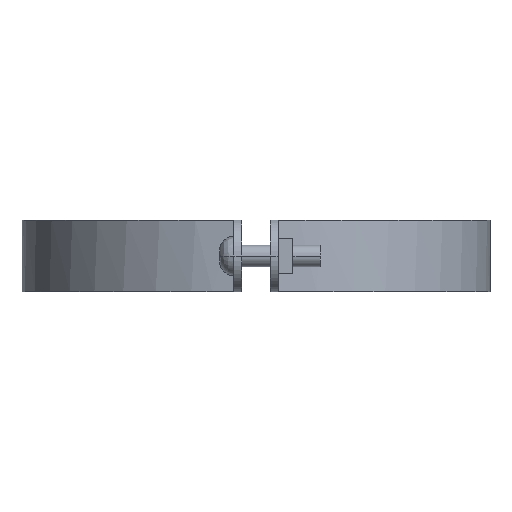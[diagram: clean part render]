
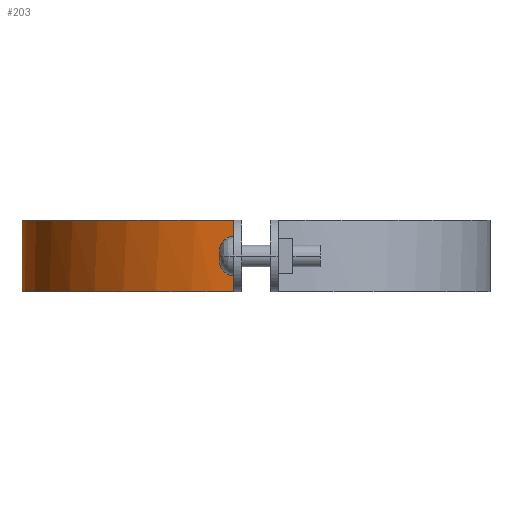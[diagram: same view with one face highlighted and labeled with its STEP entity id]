
A CAD part, left-side view. The second image highlights one B-rep face of the part: STEP entity #203.
In plain terms, the highlighted free-form (B-spline) face has degree [3, 1] with [4, 2] control points.
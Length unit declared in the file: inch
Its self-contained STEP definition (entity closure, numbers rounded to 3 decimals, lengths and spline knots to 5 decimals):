
#203=ADVANCED_FACE('',(#436),#437,.T.);
#436=FACE_OUTER_BOUND('',#786,.T.);
#437=B_SPLINE_SURFACE_WITH_KNOTS('',3,1,((#787,#788),(#789,#790),(#791,#792),(#793,#794)),.UNSPECIFIED.,.F.,.F.,.F.,(4,4),(2,2),(0.0,1.0),(0.0,1.25),.UNSPECIFIED.);
#786=EDGE_LOOP('',(#1554,#1555,#1556,#1557));
#787=CARTESIAN_POINT('',(4.7506,7.96508,0.0));
#788=CARTESIAN_POINT('',(4.7506,7.96508,1.25));
#789=CARTESIAN_POINT('',(2.65011,7.96508,0.0));
#790=CARTESIAN_POINT('',(2.65011,7.96508,1.25));
#791=CARTESIAN_POINT('',(0.89404,6.36785,0.0));
#792=CARTESIAN_POINT('',(0.89404,6.36785,1.25));
#793=CARTESIAN_POINT('',(0.69547,4.27682,0.0));
#794=CARTESIAN_POINT('',(0.69547,4.27682,1.25));
#1554=ORIENTED_EDGE('',*,*,#2097,.T.);
#1555=ORIENTED_EDGE('',*,*,#2098,.F.);
#1556=ORIENTED_EDGE('',*,*,#2099,.T.);
#1557=ORIENTED_EDGE('',*,*,#2017,.T.);
#2017=EDGE_CURVE('',#2306,#2304,#2307,.T.);
#2097=EDGE_CURVE('',#2304,#2434,#2435,.T.);
#2098=EDGE_CURVE('',#2436,#2434,#2437,.T.);
#2099=EDGE_CURVE('',#2436,#2306,#2438,.T.);
#2304=VERTEX_POINT('',#2724);
#2306=VERTEX_POINT('',#2727);
#2307=LINE('',#2728,#2729);
#2434=VERTEX_POINT('',#2966);
#2435=B_SPLINE_CURVE_WITH_KNOTS('',3,(#2967,#2968,#2969,#2970),.UNSPECIFIED.,.F.,.F.,(4,4),(-1.0,-0.0),.UNSPECIFIED.);
#2436=VERTEX_POINT('',#2971);
#2437=LINE('',#2972,#2973);
#2438=B_SPLINE_CURVE_WITH_KNOTS('',3,(#2974,#2975,#2976,#2977),.UNSPECIFIED.,.F.,.F.,(4,4),(0.0,1.0),.UNSPECIFIED.);
#2724=CARTESIAN_POINT('',(0.69547,4.27682,1.24992));
#2727=CARTESIAN_POINT('',(0.69547,4.27682,0.00011));
#2728=CARTESIAN_POINT('',(0.69547,4.27682,0.0));
#2729=VECTOR('',#3389,1.0);
#2966=CARTESIAN_POINT('',(4.7506,7.96508,1.24992));
#2967=CARTESIAN_POINT('',(0.69547,4.27682,1.24992));
#2968=CARTESIAN_POINT('',(0.89404,6.36785,1.24992));
#2969=CARTESIAN_POINT('',(2.65011,7.96508,1.24992));
#2970=CARTESIAN_POINT('',(4.7506,7.96508,1.24992));
#2971=CARTESIAN_POINT('',(4.7506,7.96508,0.00011));
#2972=CARTESIAN_POINT('',(4.7506,7.96508,0.0));
#2973=VECTOR('',#3434,1.0);
#2974=CARTESIAN_POINT('',(4.7506,7.96508,0.00011));
#2975=CARTESIAN_POINT('',(2.65011,7.96508,0.00011));
#2976=CARTESIAN_POINT('',(0.89404,6.36785,0.00011));
#2977=CARTESIAN_POINT('',(0.69547,4.27682,0.00011));
#3389=DIRECTION('',(0.0,0.0,1.0));
#3434=DIRECTION('',(0.0,0.0,1.0));
